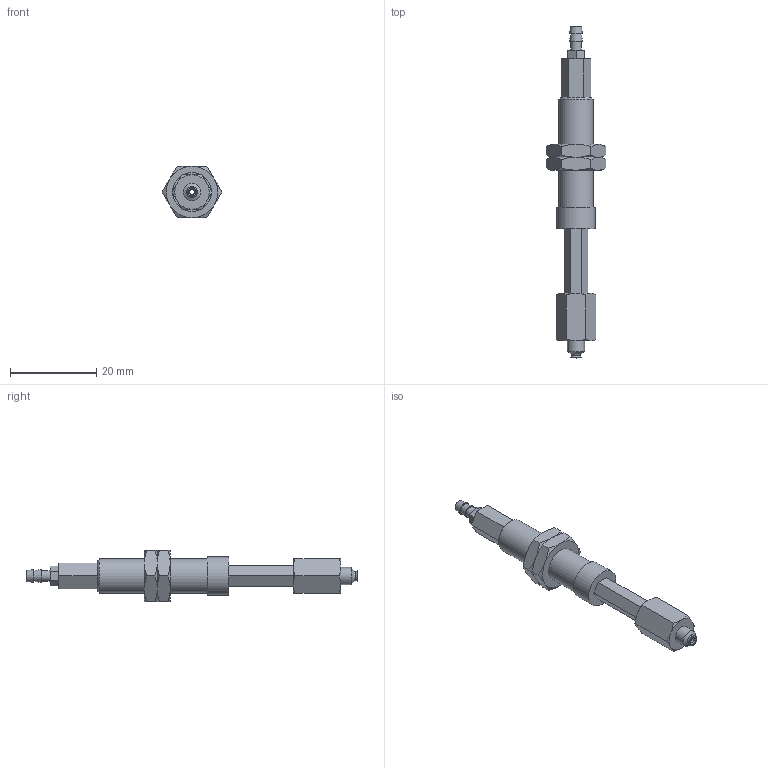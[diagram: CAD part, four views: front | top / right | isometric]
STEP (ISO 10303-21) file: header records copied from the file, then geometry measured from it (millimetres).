
FILE_DESCRIPTION(('STEP AP203'),'1');
FILE_NAME('-T.stp','2025-08-27T02:36:41',(' '),(' '),'Spatial InterOp 3D',' ',' ');
FILE_SCHEMA(('CONFIG_CONTROL_DESIGN'));
Length unit declared in the file: millimetre
Products named in the file (7): BNABPFTH-2A-15-※-T; ADAPTER; NAPFTH-2A-15-MBODY; Nut-2A-15-h; NAPFTH-2A-15-FBODY; BPFG-2A-※; T (2)
Assembly tree (7 placements, depth 2):
  BNABPFTH-2A-15-※-T
    ADAPTER
    NAPFTH-2A-15-MBODY
    Nut-2A-15-h  x2
    NAPFTH-2A-15-FBODY
    BPFG-2A-※
    T (2)
Bounding box: 13.86 x 77.1 x 12 mm (x, y, z)
Volume: 3284.1 mm3; surface area: 3998.7 mm2
Topology: 7 solids, 7 shells, 139 faces, 295 edges, 180 vertices
Faces by surface type: plane 66, cone 49, cylinder 16, torus 7, bspline 1
Full cylindrical faces by diameter (mm): 1.2 x4, 2 x2, 2.459 x1, 2.5 x1, 3 x3, 4 x1, 7.188 x2, 8 x1, 9 x1
Entity records: 3449 total; most frequent: CARTESIAN_POINT 791, DIRECTION 478, ORIENTED_EDGE 412, EDGE_CURVE 206, AXIS2_PLACEMENT_3D 197, EDGE_LOOP 172, VERTEX_POINT 146, FACE_OUTER_BOUND 139
